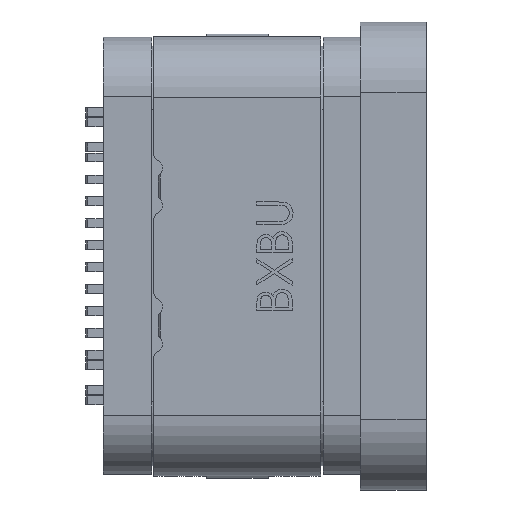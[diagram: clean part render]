
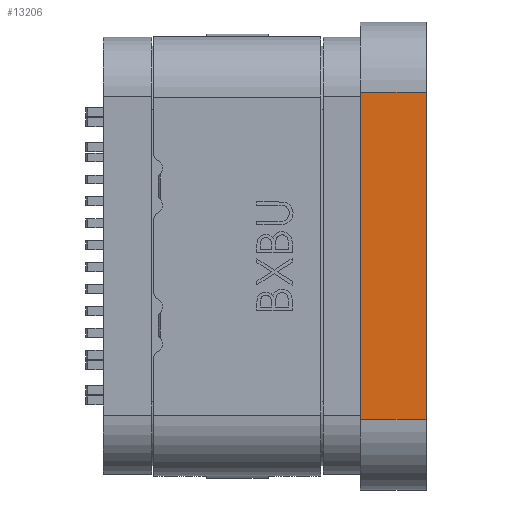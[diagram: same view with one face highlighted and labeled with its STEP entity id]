
A CAD part, top view. The second image highlights one B-rep face of the part: STEP entity #13206.
In plain terms, the highlighted planar face has unit normal (0, 0, 1) as drawn and (0, -1, 0) by its records, which use the part's own axes.
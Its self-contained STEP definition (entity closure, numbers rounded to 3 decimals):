
#226 = CARTESIAN_POINT ( 'NONE',  ( 3.72, -2.43, -0.75 ) ) ;
#2916 = CARTESIAN_POINT ( 'NONE',  ( -3.72, -2.43, -0.75 ) ) ;
#3220 = VERTEX_POINT ( 'NONE', #11453 ) ;
#3431 = LINE ( 'NONE', #20232, #3641 ) ;
#3641 = VECTOR ( 'NONE', #9209, 1000. ) ;
#3909 = VECTOR ( 'NONE', #7984, 1000. ) ;
#4800 = DIRECTION ( 'NONE',  ( 0., 0., 1. ) ) ;
#4875 = VECTOR ( 'NONE', #4800, 1000. ) ;
#5045 = DIRECTION ( 'NONE',  ( 0., 0., -1. ) ) ;
#5173 = PLANE ( 'NONE',  #14625 ) ;
#5548 = ORIENTED_EDGE ( 'NONE', *, *, #7356, .F. ) ;
#6128 = ORIENTED_EDGE ( 'NONE', *, *, #19072, .T. ) ;
#6789 = LINE ( 'NONE', #2916, #4875 ) ;
#7356 = EDGE_CURVE ( 'NONE', #23002, #14334, #18249, .T. ) ;
#7984 = DIRECTION ( 'NONE',  ( 0., 0., 1. ) ) ;
#8147 = CARTESIAN_POINT ( 'NONE',  ( 3.72, -2.43, 0.75 ) ) ;
#9209 = DIRECTION ( 'NONE',  ( 1., 0., 0. ) ) ;
#10680 = FACE_OUTER_BOUND ( 'NONE', #13501, .T. ) ;
#10811 = CARTESIAN_POINT ( 'NONE',  ( -3.72, -2.43, -0.75 ) ) ;
#11453 = CARTESIAN_POINT ( 'NONE',  ( -3.72, -2.43, -0.75 ) ) ;
#13206 = ADVANCED_FACE ( 'NONE', ( #10680 ), #5173, .T. ) ;
#13501 = EDGE_LOOP ( 'NONE', ( #6128, #5548, #21113, #19959 ) ) ;
#14334 = VERTEX_POINT ( 'NONE', #8147 ) ;
#14625 = AXIS2_PLACEMENT_3D ( 'NONE', #10811, #18089, #5045 ) ;
#15093 = CARTESIAN_POINT ( 'NONE',  ( -3.72, -2.43, 0.75 ) ) ;
#18089 = DIRECTION ( 'NONE',  ( 0., -1., 0. ) ) ;
#18224 = VERTEX_POINT ( 'NONE', #18547 ) ;
#18249 = LINE ( 'NONE', #20011, #18684 ) ;
#18547 = CARTESIAN_POINT ( 'NONE',  ( 3.72, -2.43, -0.75 ) ) ;
#18684 = VECTOR ( 'NONE', #20386, 1000. ) ;
#19072 = EDGE_CURVE ( 'NONE', #18224, #14334, #21158, .T. ) ;
#19959 = ORIENTED_EDGE ( 'NONE', *, *, #22892, .T. ) ;
#20011 = CARTESIAN_POINT ( 'NONE',  ( -3.72, -2.43, 0.75 ) ) ;
#20232 = CARTESIAN_POINT ( 'NONE',  ( -3.72, -2.43, -0.75 ) ) ;
#20386 = DIRECTION ( 'NONE',  ( 1., 0., 0. ) ) ;
#21113 = ORIENTED_EDGE ( 'NONE', *, *, #23216, .F. ) ;
#21158 = LINE ( 'NONE', #226, #3909 ) ;
#22892 = EDGE_CURVE ( 'NONE', #3220, #18224, #3431, .T. ) ;
#23002 = VERTEX_POINT ( 'NONE', #15093 ) ;
#23216 = EDGE_CURVE ( 'NONE', #3220, #23002, #6789, .T. ) ;
